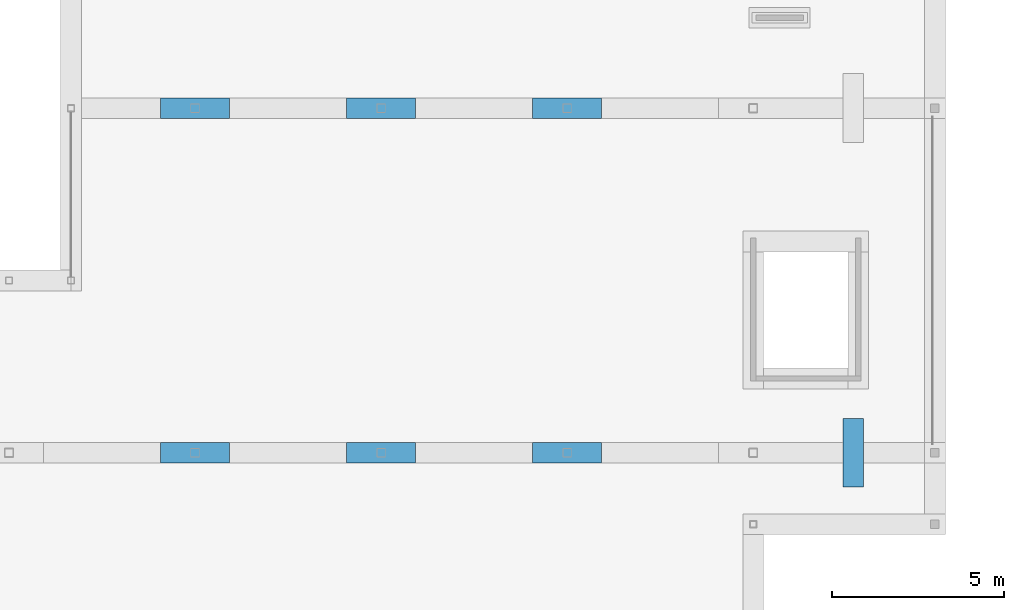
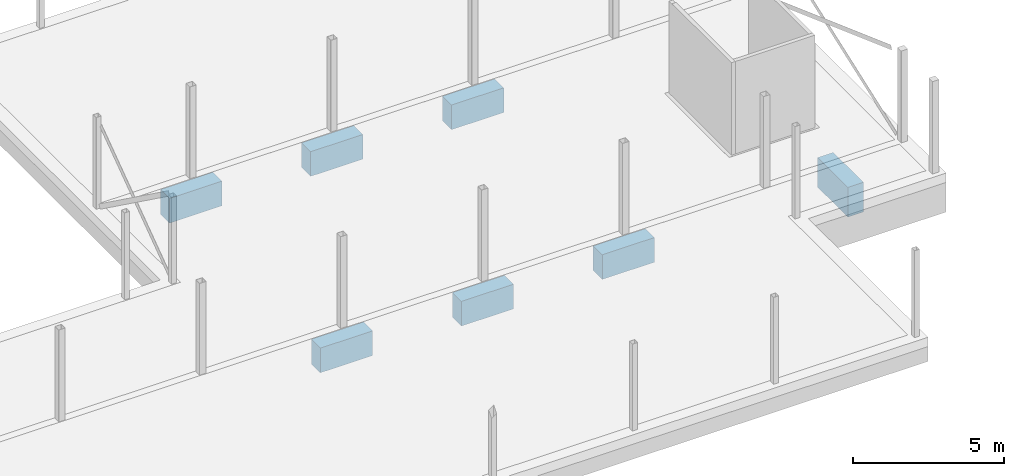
# One storey, part 9 of 12: 7 slabs.
"""IFC2X3 building model written with IfcOpenShell, lengths in millimetres."""

from ifc_helpers import new_model, entity, si_unit, converted_unit, derived_unit, direction, frame, frame_2d, origin, origin_2d_with_axis, place, context, subcontext, project, spatial, rectangle, extrude, material, type_object, element, save


model = new_model("IFC2X3")

# Units and contexts
model_context = context("Model", 3, precision=0.01, world=origin(), true_north=direction((6.123031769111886e-17, 1.0)))
body_context = subcontext(model_context, "Body", "Model", "MODEL_VIEW")
ifc_project = project(units=[si_unit("LENGTHUNIT", "METRE", prefix="MILLI"), si_unit("AREAUNIT", "SQUARE_METRE"), si_unit("VOLUMEUNIT", "CUBIC_METRE"), converted_unit("PLANEANGLEUNIT", "DEGREE", entity("IfcPlaneAngleMeasure", 0.017453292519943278), si_unit("PLANEANGLEUNIT", "RADIAN"), dimensions=[0, 0, 0, 0, 0, 0, 0]), si_unit("MASSUNIT", "GRAM", prefix="KILO"), derived_unit("MASSDENSITYUNIT", [(si_unit("MASSUNIT", "GRAM", prefix="KILO"), 1), (si_unit("LENGTHUNIT", "METRE"), -3)]), derived_unit("IONCONCENTRATIONUNIT", [(si_unit("MASSUNIT", "GRAM", prefix="KILO"), 1), (si_unit("LENGTHUNIT", "METRE"), -3)]), derived_unit("MOMENTOFINERTIAUNIT", [(si_unit("LENGTHUNIT", "METRE"), 4)]), si_unit("TIMEUNIT", "SECOND"), si_unit("FREQUENCYUNIT", "HERTZ"), si_unit("THERMODYNAMICTEMPERATUREUNIT", "DEGREE_CELSIUS"), derived_unit("THERMALTRANSMITTANCEUNIT", [(si_unit("MASSUNIT", "GRAM", prefix="KILO"), 1), (si_unit("THERMODYNAMICTEMPERATUREUNIT", "KELVIN"), -1), (si_unit("TIMEUNIT", "SECOND"), -3)]), derived_unit("THERMALCONDUCTANCEUNIT", [(si_unit("MASSUNIT", "GRAM", prefix="KILO"), 1), (si_unit("THERMODYNAMICTEMPERATUREUNIT", "KELVIN"), -1), (si_unit("TIMEUNIT", "SECOND"), -3), (si_unit("LENGTHUNIT", "METRE"), 1)]), derived_unit("VOLUMETRICFLOWRATEUNIT", [(si_unit("LENGTHUNIT", "METRE", prefix="DECI"), 3), (si_unit("TIMEUNIT", "SECOND"), -1)]), derived_unit("MASSFLOWRATEUNIT", [(si_unit("MASSUNIT", "GRAM", prefix="KILO"), 1), (si_unit("TIMEUNIT", "SECOND"), -1)]), derived_unit("ROTATIONALFREQUENCYUNIT", [(si_unit("TIMEUNIT", "SECOND"), -1)]), si_unit("ELECTRICCURRENTUNIT", "AMPERE"), si_unit("ELECTRICVOLTAGEUNIT", "VOLT"), si_unit("POWERUNIT", "WATT"), si_unit("FORCEUNIT", "NEWTON", prefix="KILO"), si_unit("ILLUMINANCEUNIT", "LUX"), si_unit("LUMINOUSFLUXUNIT", "LUMEN"), si_unit("LUMINOUSINTENSITYUNIT", "CANDELA"), si_unit("ENERGYUNIT", "JOULE"), derived_unit("USERDEFINED", [(si_unit("MASSUNIT", "GRAM", prefix="KILO"), -1), (si_unit("LENGTHUNIT", "METRE"), -2), (si_unit("TIMEUNIT", "SECOND"), 3), (si_unit("LUMINOUSFLUXUNIT", "LUMEN"), 1)]), derived_unit("USERDEFINED", [(si_unit("MASSUNIT", "GRAM", prefix="KILO"), 1), (si_unit("TIMEUNIT", "SECOND"), -3), (si_unit("LENGTHUNIT", "METRE"), 3), (si_unit("ELECTRICCURRENTUNIT", "AMPERE"), -2)]), derived_unit("SOUNDPOWERUNIT", [(si_unit("MASSUNIT", "GRAM", prefix="KILO"), 1), (si_unit("TIMEUNIT", "SECOND"), -3), (si_unit("LENGTHUNIT", "METRE"), 2)]), derived_unit("SOUNDPRESSUREUNIT", [(si_unit("MASSUNIT", "GRAM", prefix="KILO"), 1), (si_unit("LENGTHUNIT", "METRE"), -1), (si_unit("TIMEUNIT", "SECOND"), -2)]), derived_unit("LINEARVELOCITYUNIT", [(si_unit("LENGTHUNIT", "METRE"), 1), (si_unit("TIMEUNIT", "SECOND"), -1)]), si_unit("PRESSUREUNIT", "PASCAL"), derived_unit("USERDEFINED", [(si_unit("MASSUNIT", "GRAM", prefix="KILO"), 1), (si_unit("LENGTHUNIT", "METRE"), -2), (si_unit("TIMEUNIT", "SECOND"), -2)]), derived_unit("LINEARFORCEUNIT", [(si_unit("MASSUNIT", "GRAM", prefix="KILO"), 1), (si_unit("TIMEUNIT", "SECOND"), -2)]), derived_unit("PLANARFORCEUNIT", [(si_unit("MASSUNIT", "GRAM", prefix="KILO"), 1), (si_unit("LENGTHUNIT", "METRE"), -1), (si_unit("TIMEUNIT", "SECOND"), -2)]), derived_unit("SPECIFICHEATCAPACITYUNIT", [(si_unit("THERMODYNAMICTEMPERATUREUNIT", "KELVIN"), -1), (si_unit("LENGTHUNIT", "METRE"), 2), (si_unit("TIMEUNIT", "SECOND"), -2)]), derived_unit("HEATFLUXDENSITYUNIT", [(si_unit("MASSUNIT", "GRAM", prefix="KILO"), 1), (si_unit("TIMEUNIT", "SECOND"), -3)]), derived_unit("HEATINGVALUEUNIT", [(si_unit("LENGTHUNIT", "METRE"), 2), (si_unit("TIMEUNIT", "SECOND"), -2)]), derived_unit("VAPORPERMEABILITYUNIT", [(si_unit("LENGTHUNIT", "METRE"), -1), (si_unit("TIMEUNIT", "SECOND"), 1)]), derived_unit("DYNAMICVISCOSITYUNIT", [(si_unit("MASSUNIT", "GRAM", prefix="KILO"), 1), (si_unit("TIMEUNIT", "SECOND"), -1), (si_unit("LENGTHUNIT", "METRE"), -1)]), derived_unit("THERMALEXPANSIONCOEFFICIENTUNIT", [(si_unit("THERMODYNAMICTEMPERATUREUNIT", "KELVIN"), -1)]), derived_unit("MODULUSOFELASTICITYUNIT", [(si_unit("MASSUNIT", "GRAM", prefix="KILO"), 1), (si_unit("LENGTHUNIT", "METRE"), -1), (si_unit("TIMEUNIT", "SECOND"), -2)]), derived_unit("ISOTHERMALMOISTURECAPACITYUNIT", [(si_unit("MASSUNIT", "GRAM", prefix="KILO"), -1), (si_unit("LENGTHUNIT", "METRE"), 3)]), derived_unit("MOISTUREDIFFUSIVITYUNIT", [(si_unit("TIMEUNIT", "SECOND"), -1), (si_unit("LENGTHUNIT", "METRE"), 2)]), derived_unit("MASSPERLENGTHUNIT", [(si_unit("MASSUNIT", "GRAM", prefix="KILO"), 1), (si_unit("LENGTHUNIT", "METRE"), -1)]), derived_unit("THERMALRESISTANCEUNIT", [(si_unit("MASSUNIT", "GRAM", prefix="KILO"), -1), (si_unit("TIMEUNIT", "SECOND"), 3), (si_unit("THERMODYNAMICTEMPERATUREUNIT", "KELVIN"), 1)]), derived_unit("ACCELERATIONUNIT", [(si_unit("LENGTHUNIT", "METRE"), 1), (si_unit("TIMEUNIT", "SECOND"), -2)]), derived_unit("ANGULARVELOCITYUNIT", [(si_unit("TIMEUNIT", "SECOND"), -1), (si_unit("PLANEANGLEUNIT", "RADIAN"), 1)]), derived_unit("LINEARSTIFFNESSUNIT", [(si_unit("MASSUNIT", "GRAM", prefix="KILO"), 1), (si_unit("TIMEUNIT", "SECOND"), -2)]), derived_unit("WARPINGCONSTANTUNIT", [(si_unit("LENGTHUNIT", "METRE"), 6)]), derived_unit("LINEARMOMENTUNIT", [(si_unit("MASSUNIT", "GRAM", prefix="KILO"), 1), (si_unit("LENGTHUNIT", "METRE"), 1), (si_unit("TIMEUNIT", "SECOND"), -2)]), derived_unit("TORQUEUNIT", [(si_unit("MASSUNIT", "GRAM", prefix="KILO"), 1), (si_unit("LENGTHUNIT", "METRE"), 2), (si_unit("TIMEUNIT", "SECOND"), -2)])], contexts=[model_context])

# Site, building, storey
site_placement = place(None, origin())
site = spatial("IfcSite", under=ifc_project, at=site_placement, Name="Default", CompositionType="ELEMENT")
building_placement = place(site_placement, origin())
building = spatial("IfcBuilding", under=site, at=building_placement, CompositionType="ELEMENT")
storey_placement = place(building_placement, origin())
storey = spatial("IfcBuildingStorey", under=building, at=storey_placement, Name="00 begane grond", CompositionType="ELEMENT", Elevation=0.0)

# Slabs
ifc_material = material(Name="VRI_beton_ihwg")
slab_type_1 = type_object("IfcSlabType", Name="16_SFO_VRI_beton_poer:600x1000x2000", PredefinedType="BASESLAB", material=ifc_material)
slab_1_placement = place(storey_placement, origin())
element("IfcSlab", 1, at=slab_1_placement, inside=storey, type_object=slab_type_1, Name="16_SFO_VRI_beton_poer:600x1000x2000", ObjectType="16_SFO_VRI_beton_poer:600x1000x2000", PredefinedType="BASESLAB", context=body_context, shape_type="SweptSolid", body=[
    extrude(rectangle(XDim=599.9999999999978, YDim=2000.0000000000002, at=frame_2d((-2.1600499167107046e-12, 2.1600499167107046e-12), x_axis=(1.0, 0.0))), frame((37000.0, 20000.0, -1460.0), z_axis=(0.0, 0.0, 1.0), x_axis=(0.0, 1.0, 0.0)), (0.0, 0.0, 1.0), 1000.0000000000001),
])
slab_2_placement = place(storey_placement, origin())
element("IfcSlab", 2, at=slab_2_placement, inside=storey, type_object=slab_type_1, Name="16_SFO_VRI_beton_poer:600x1000x2000", ObjectType="16_SFO_VRI_beton_poer:600x1000x2000", PredefinedType="BASESLAB", context=body_context, shape_type="SweptSolid", body=[
    extrude(rectangle(XDim=599.9999999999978, YDim=2000.0000000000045, at=frame_2d((0.0, -8.697043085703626e-12), x_axis=(1.0, 0.0))), frame((42400.0, 20000.0, -1460.0), z_axis=(0.0, 0.0, 1.0), x_axis=(0.0, -1.0, 0.0)), (0.0, 0.0, 1.0), 1000.0000000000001),
])
slab_3_placement = place(storey_placement, origin())
element("IfcSlab", 3, at=slab_3_placement, inside=storey, type_object=slab_type_1, Name="16_SFO_VRI_beton_poer:600x1000x2000", ObjectType="16_SFO_VRI_beton_poer:600x1000x2000", PredefinedType="BASESLAB", context=body_context, shape_type="SweptSolid", body=[
    extrude(rectangle(XDim=599.9999999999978, YDim=2000.0000000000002, at=frame_2d((0.0, 2.1600499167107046e-12), x_axis=(1.0, 0.0))), frame((37000.0, 30000.0, -1460.0), z_axis=(0.0, 0.0, 1.0), x_axis=(0.0, -1.0, 0.0)), (0.0, 0.0, 1.0), 1000.0000000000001),
])
slab_4_placement = place(storey_placement, origin())
element("IfcSlab", 4, at=slab_4_placement, inside=storey, type_object=slab_type_1, Name="16_SFO_VRI_beton_poer:600x1000x2000", ObjectType="16_SFO_VRI_beton_poer:600x1000x2000", PredefinedType="BASESLAB", context=body_context, shape_type="SweptSolid", body=[
    extrude(rectangle(XDim=599.9999999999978, YDim=2000.0000000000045, at=frame_2d((0.0, -8.697043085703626e-12), x_axis=(1.0, 0.0))), frame((42400.0, 30000.0, -1460.0), z_axis=(0.0, 0.0, 1.0), x_axis=(0.0, -1.0, 0.0)), (0.0, 0.0, 1.0), 1000.0000000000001),
])
slab_5_placement = place(storey_placement, origin())
element("IfcSlab", 5, at=slab_5_placement, inside=storey, type_object=slab_type_1, Name="16_SFO_VRI_beton_poer:600x1000x2000", ObjectType="16_SFO_VRI_beton_poer:600x1000x2000", PredefinedType="BASESLAB", context=body_context, shape_type="SweptSolid", body=[
    extrude(rectangle(XDim=599.9999999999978, YDim=2000.0000000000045, at=origin_2d_with_axis()), frame((47800.0, 20000.0, -1460.0), z_axis=(0.0, 0.0, 1.0), x_axis=(0.0, -1.0, 0.0)), (0.0, 0.0, 1.0), 1000.0000000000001),
])
slab_6_placement = place(storey_placement, origin())
element("IfcSlab", 6, at=slab_6_placement, inside=storey, type_object=slab_type_1, Name="16_SFO_VRI_beton_poer:600x1000x2000", ObjectType="16_SFO_VRI_beton_poer:600x1000x2000", PredefinedType="BASESLAB", context=body_context, shape_type="SweptSolid", body=[
    extrude(rectangle(XDim=599.9999999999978, YDim=2000.0000000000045, at=origin_2d_with_axis()), frame((47800.0, 30000.0, -1460.0), z_axis=(0.0, 0.0, 1.0), x_axis=(0.0, -1.0, 0.0)), (0.0, 0.0, 1.0), 1000.0000000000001),
])
slab_type_2 = type_object("IfcSlabType", Name="16_SFO_VRI_beton_poer:600x1200x2000", PredefinedType="BASESLAB", material=ifc_material)
slab_7_placement = place(storey_placement, origin())
element("IfcSlab", 7, at=slab_7_placement, inside=storey, type_object=slab_type_2, Name="16_SFO_VRI_beton_poer:600x1200x2000", ObjectType="16_SFO_VRI_beton_poer:600x1200x2000", PredefinedType="BASESLAB", context=body_context, shape_type="SweptSolid", body=[
    extrude(rectangle(XDim=600.0000000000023, YDim=2000.0000000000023, at=frame_2d((4.320099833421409e-12, -7.474909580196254e-11), x_axis=(1.0, 0.0))), frame((56100.0, 20000.0, -1660.0)), (0.0, 0.0, 1.0), 1200.0),
])

save(model, "model.ifc")
